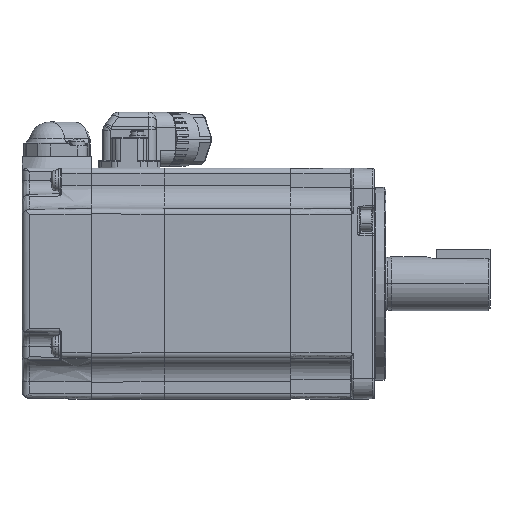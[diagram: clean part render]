
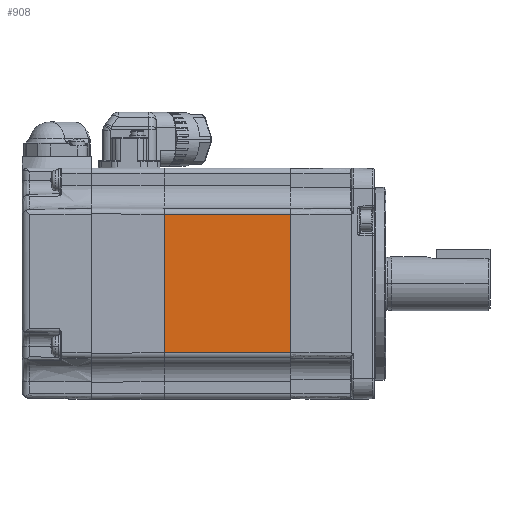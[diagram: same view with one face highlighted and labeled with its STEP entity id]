
A CAD part, top view. The second image highlights one B-rep face of the part: STEP entity #908.
In plain terms, the highlighted planar face has unit normal (0, 0, 1).
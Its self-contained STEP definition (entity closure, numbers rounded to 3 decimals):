
#908=ADVANCED_FACE('',(#7069),#7068,.F.);
#7068=PLANE('',#17177);
#7069=FACE_OUTER_BOUND('',#17178,.T.);
#17174=CARTESIAN_POINT('',(-57.83,-21.6,30.));
#17175=DIRECTION('',(0.,0.,-1.));
#17176=DIRECTION('',(0.,1.,0.));
#17177=AXIS2_PLACEMENT_3D('',#17174,#17175,#17176);
#17178=EDGE_LOOP('',(#24057,#24058,#24059,#24060));
#24057=ORIENTED_EDGE('',*,*,#27878,.T.);
#24058=ORIENTED_EDGE('',*,*,#26841,.F.);
#24059=ORIENTED_EDGE('',*,*,#27877,.F.);
#24060=ORIENTED_EDGE('',*,*,#27843,.F.);
#26841=EDGE_CURVE('',#33362,#33327,#33703,.T.);
#27843=EDGE_CURVE('',#40430,#40437,#40438,.T.);
#27877=EDGE_CURVE('',#40437,#33362,#40658,.T.);
#27878=EDGE_CURVE('',#40430,#33327,#40664,.T.);
#33327=VERTEX_POINT('',#48325);
#33362=VERTEX_POINT('',#48346);
#33703=LINE('',#48539,#48540);
#40430=VERTEX_POINT('',#53373);
#40437=VERTEX_POINT('',#53378);
#40438=LINE('',#53379,#53380);
#40658=LINE('',#53506,#53507);
#40664=LINE('',#53509,#53510);
#48325=CARTESIAN_POINT('',(-54.55,18.,30.));
#48346=CARTESIAN_POINT('',(-54.55,-18.,30.));
#48539=CARTESIAN_POINT('',(-54.55,-18.,30.));
#48540=VECTOR('',#48541,36.);
#48541=DIRECTION('',(0.,1.,0.));
#53373=CARTESIAN_POINT('',(-21.75,18.,30.));
#53378=CARTESIAN_POINT('',(-21.75,-18.,30.));
#53379=CARTESIAN_POINT('',(-21.75,18.,30.));
#53380=VECTOR('',#53381,36.);
#53381=DIRECTION('',(0.,-1.,0.));
#53506=CARTESIAN_POINT('',(-21.75,-18.,30.));
#53507=VECTOR('',#53508,32.8);
#53508=DIRECTION('',(-1.,0.,0.));
#53509=CARTESIAN_POINT('',(-21.75,18.,30.));
#53510=VECTOR('',#53511,32.8);
#53511=DIRECTION('',(-1.,0.,0.));
